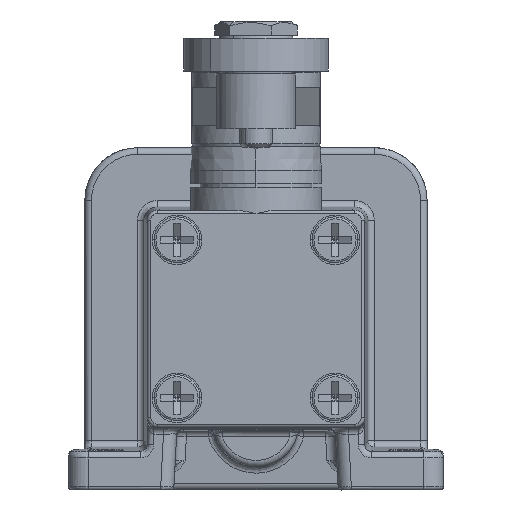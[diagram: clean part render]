
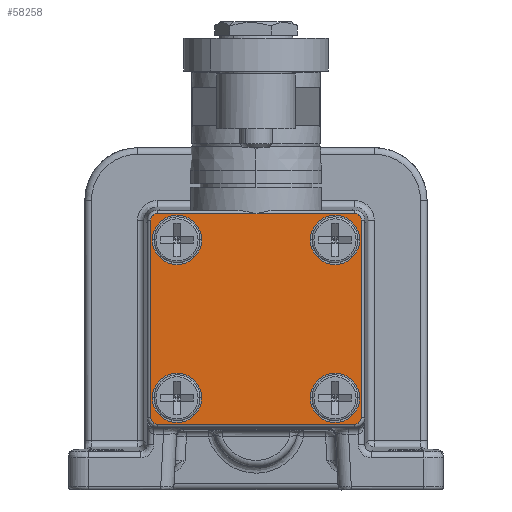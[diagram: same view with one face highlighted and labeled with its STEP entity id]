
A CAD part, left-side view. The second image highlights one B-rep face of the part: STEP entity #58258.
In plain terms, the highlighted planar face has unit normal (-1, 0, 0).
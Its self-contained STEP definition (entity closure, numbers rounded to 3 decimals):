
#56669=CARTESIAN_POINT('',(-76.253,0.,16.));
#56670=VERTEX_POINT('',#56669);
#57533=CARTESIAN_POINT('',(-76.253,15.,-16.));
#57534=VERTEX_POINT('',#57533);
#57543=CARTESIAN_POINT('',(-76.253,-15.,-16.));
#57544=VERTEX_POINT('',#57543);
#57552=CARTESIAN_POINT('',(-76.253,15.,-16.));
#57553=DIRECTION('',(0.0,-1.0,0.0));
#57554=VECTOR('',#57553,30.0);
#57555=LINE('',#57552,#57554);
#57556=EDGE_CURVE('',#57534,#57544,#57555,.T.);
#57566=CARTESIAN_POINT('',(-76.253,16.,-15.));
#57567=VERTEX_POINT('',#57566);
#57577=CARTESIAN_POINT('',(-76.253,15.,-15.));
#57578=DIRECTION('',(-1.0,0.0,0.0));
#57579=DIRECTION('',(0.0,1.0,0.0));
#57580=AXIS2_PLACEMENT_3D('',#57577,#57578,#57579);
#57581=CIRCLE('',#57580,1.);
#57582=EDGE_CURVE('',#57567,#57534,#57581,.T.);
#57592=CARTESIAN_POINT('',(-76.253,16.,15.));
#57593=VERTEX_POINT('',#57592);
#57603=CARTESIAN_POINT('',(-76.253,16.,15.));
#57604=DIRECTION('',(0.0,0.0,-1.0));
#57605=VECTOR('',#57604,30.0);
#57606=LINE('',#57603,#57605);
#57607=EDGE_CURVE('',#57593,#57567,#57606,.T.);
#57617=CARTESIAN_POINT('',(-76.253,15.,16.));
#57618=VERTEX_POINT('',#57617);
#57636=CARTESIAN_POINT('',(-76.253,15.,15.));
#57637=DIRECTION('',(-1.0,0.0,0.0));
#57638=DIRECTION('',(0.0,0.0,1.0));
#57639=AXIS2_PLACEMENT_3D('',#57636,#57637,#57638);
#57640=CIRCLE('',#57639,1.);
#57641=EDGE_CURVE('',#57618,#57593,#57640,.T.);
#57716=CARTESIAN_POINT('',(-76.253,-15.,16.));
#57717=VERTEX_POINT('',#57716);
#57727=CARTESIAN_POINT('',(-76.253,-15.,16.));
#57728=DIRECTION('',(0.0,1.0,0.0));
#57729=VECTOR('',#57728,15.0);
#57730=LINE('',#57727,#57729);
#57731=EDGE_CURVE('',#57717,#56670,#57730,.T.);
#57742=CARTESIAN_POINT('',(-76.253,0.,16.));
#57743=DIRECTION('',(0.0,1.0,0.0));
#57744=VECTOR('',#57743,15.0);
#57745=LINE('',#57742,#57744);
#57746=EDGE_CURVE('',#56670,#57618,#57745,.T.);
#57758=CARTESIAN_POINT('',(-76.253,-16.,15.));
#57759=VERTEX_POINT('',#57758);
#57769=CARTESIAN_POINT('',(-76.253,-15.,15.));
#57770=DIRECTION('',(-1.0,0.0,0.0));
#57771=DIRECTION('',(0.0,-1.0,0.0));
#57772=AXIS2_PLACEMENT_3D('',#57769,#57770,#57771);
#57773=CIRCLE('',#57772,1.);
#57774=EDGE_CURVE('',#57759,#57717,#57773,.T.);
#57784=CARTESIAN_POINT('',(-76.253,-16.,-15.));
#57785=VERTEX_POINT('',#57784);
#57795=CARTESIAN_POINT('',(-76.253,-16.,-15.));
#57796=DIRECTION('',(0.0,0.0,1.0));
#57797=VECTOR('',#57796,30.0);
#57798=LINE('',#57795,#57797);
#57799=EDGE_CURVE('',#57785,#57759,#57798,.T.);
#57818=CARTESIAN_POINT('',(-76.253,-15.,-15.));
#57819=DIRECTION('',(-1.0,0.0,0.0));
#57820=DIRECTION('',(0.0,0.0,-1.0));
#57821=AXIS2_PLACEMENT_3D('',#57818,#57819,#57820);
#57822=CIRCLE('',#57821,1.);
#57823=EDGE_CURVE('',#57544,#57785,#57822,.T.);
#57859=CARTESIAN_POINT('',(-76.253,-15.75,12.));
#57860=VERTEX_POINT('',#57859);
#57878=CARTESIAN_POINT('',(-76.253,-8.25,12.));
#57879=VERTEX_POINT('',#57878);
#57886=CARTESIAN_POINT('',(-76.253,-12.,12.));
#57887=DIRECTION('',(1.0,0.0,0.0));
#57888=DIRECTION('',(0.0,-1.0,0.0));
#57889=AXIS2_PLACEMENT_3D('',#57886,#57887,#57888);
#57890=CIRCLE('',#57889,3.75);
#57891=EDGE_CURVE('',#57860,#57879,#57890,.T.);
#57910=CARTESIAN_POINT('',(-76.253,-12.,12.));
#57911=DIRECTION('',(1.0,0.0,0.0));
#57912=DIRECTION('',(0.0,1.0,0.0));
#57913=AXIS2_PLACEMENT_3D('',#57910,#57911,#57912);
#57914=CIRCLE('',#57913,3.75);
#57915=EDGE_CURVE('',#57879,#57860,#57914,.T.);
#57939=CARTESIAN_POINT('',(-76.253,8.25,12.));
#57940=VERTEX_POINT('',#57939);
#57958=CARTESIAN_POINT('',(-76.253,15.75,12.));
#57959=VERTEX_POINT('',#57958);
#57966=CARTESIAN_POINT('',(-76.253,12.,12.));
#57967=DIRECTION('',(1.0,0.0,0.0));
#57968=DIRECTION('',(0.0,-1.0,0.0));
#57969=AXIS2_PLACEMENT_3D('',#57966,#57967,#57968);
#57970=CIRCLE('',#57969,3.75);
#57971=EDGE_CURVE('',#57940,#57959,#57970,.T.);
#57990=CARTESIAN_POINT('',(-76.253,12.,12.));
#57991=DIRECTION('',(1.0,0.0,0.0));
#57992=DIRECTION('',(0.0,1.0,0.0));
#57993=AXIS2_PLACEMENT_3D('',#57990,#57991,#57992);
#57994=CIRCLE('',#57993,3.75);
#57995=EDGE_CURVE('',#57959,#57940,#57994,.T.);
#58021=CARTESIAN_POINT('',(-76.253,-12.,-15.75));
#58022=VERTEX_POINT('',#58021);
#58038=CARTESIAN_POINT('',(-76.253,-12.,-8.25));
#58039=VERTEX_POINT('',#58038);
#58046=CARTESIAN_POINT('',(-76.253,-12.,-12.));
#58047=DIRECTION('',(-1.0,0.0,0.0));
#58048=DIRECTION('',(0.0,0.0,1.0));
#58049=AXIS2_PLACEMENT_3D('',#58046,#58047,#58048);
#58050=CIRCLE('',#58049,3.75);
#58051=EDGE_CURVE('',#58039,#58022,#58050,.T.);
#58070=CARTESIAN_POINT('',(-76.253,-12.,-12.));
#58071=DIRECTION('',(-1.0,0.0,0.0));
#58072=DIRECTION('',(0.0,0.0,-1.0));
#58073=AXIS2_PLACEMENT_3D('',#58070,#58071,#58072);
#58074=CIRCLE('',#58073,3.75);
#58075=EDGE_CURVE('',#58022,#58039,#58074,.T.);
#58181=CARTESIAN_POINT('',(-76.253,12.,-8.25));
#58182=VERTEX_POINT('',#58181);
#58190=CARTESIAN_POINT('',(-76.253,12.,-15.75));
#58191=VERTEX_POINT('',#58190);
#58198=CARTESIAN_POINT('',(-76.253,12.,-12.));
#58199=DIRECTION('',(-1.0,0.0,0.0));
#58200=DIRECTION('',(0.0,0.0,-1.0));
#58201=AXIS2_PLACEMENT_3D('',#58198,#58199,#58200);
#58202=CIRCLE('',#58201,3.75);
#58203=EDGE_CURVE('',#58191,#58182,#58202,.T.);
#58216=CARTESIAN_POINT('',(-76.253,12.,-12.));
#58217=DIRECTION('',(-1.0,0.0,0.0));
#58218=DIRECTION('',(0.0,0.0,1.0));
#58219=AXIS2_PLACEMENT_3D('',#58216,#58217,#58218);
#58220=CIRCLE('',#58219,3.75);
#58221=EDGE_CURVE('',#58182,#58191,#58220,.T.);
#58226=CARTESIAN_POINT('',(-76.253,0.,0.));
#58227=DIRECTION('',(1.0,0.0,0.0));
#58228=DIRECTION('',(0.0,1.0,0.0));
#58229=AXIS2_PLACEMENT_3D('',#58226,#58227,#58228);
#58230=PLANE('',#58229);
#58231=ORIENTED_EDGE('',*,*,#57641,.T.);
#58232=ORIENTED_EDGE('',*,*,#57607,.T.);
#58233=ORIENTED_EDGE('',*,*,#57582,.T.);
#58234=ORIENTED_EDGE('',*,*,#57556,.T.);
#58235=ORIENTED_EDGE('',*,*,#57823,.T.);
#58236=ORIENTED_EDGE('',*,*,#57799,.T.);
#58237=ORIENTED_EDGE('',*,*,#57774,.T.);
#58238=ORIENTED_EDGE('',*,*,#57731,.T.);
#58239=ORIENTED_EDGE('',*,*,#57746,.T.);
#58240=EDGE_LOOP('',(#58231,#58232,#58233,#58234,#58235,#58236,#58237,#58238,#58239));
#58241=FACE_OUTER_BOUND('',#58240,.T.);
#58242=ORIENTED_EDGE('',*,*,#58051,.F.);
#58243=ORIENTED_EDGE('',*,*,#58075,.F.);
#58244=EDGE_LOOP('',(#58242,#58243));
#58245=FACE_BOUND('',#58244,.T.);
#58246=ORIENTED_EDGE('',*,*,#57995,.T.);
#58247=ORIENTED_EDGE('',*,*,#57971,.T.);
#58248=EDGE_LOOP('',(#58246,#58247));
#58249=FACE_BOUND('',#58248,.T.);
#58250=ORIENTED_EDGE('',*,*,#57915,.T.);
#58251=ORIENTED_EDGE('',*,*,#57891,.T.);
#58252=EDGE_LOOP('',(#58250,#58251));
#58253=FACE_BOUND('',#58252,.T.);
#58254=ORIENTED_EDGE('',*,*,#58203,.F.);
#58255=ORIENTED_EDGE('',*,*,#58221,.F.);
#58256=EDGE_LOOP('',(#58254,#58255));
#58257=FACE_BOUND('',#58256,.T.);
#58258=ADVANCED_FACE('',(#58241,#58245,#58249,#58253,#58257),#58230,.F.);
